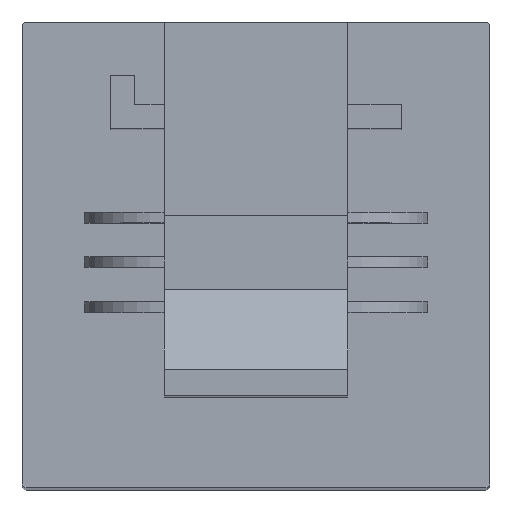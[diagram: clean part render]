
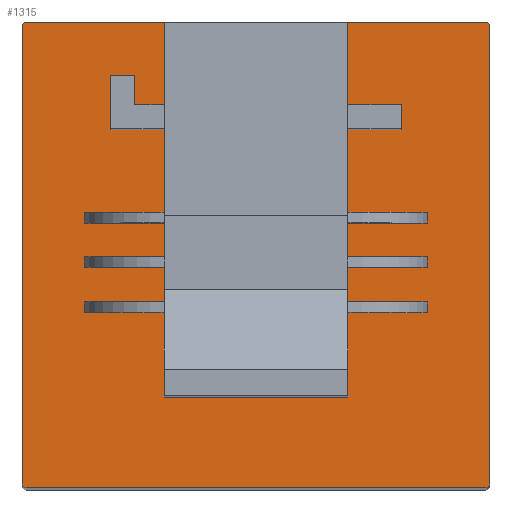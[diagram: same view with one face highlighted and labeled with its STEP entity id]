
A CAD part, top view. The second image highlights one B-rep face of the part: STEP entity #1315.
In plain terms, the highlighted planar face has unit normal (0, 0, 1).
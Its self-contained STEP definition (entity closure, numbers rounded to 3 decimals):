
#1 = CARTESIAN_POINT ( 'NONE',  ( 420.435, 174.005, 90. ) ) ;
#118 = VECTOR ( 'NONE', #3358, 1000. ) ;
#190 = EDGE_CURVE ( 'NONE', #1474, #1939, #2580, .T. ) ;
#191 = CARTESIAN_POINT ( 'NONE',  ( 420.435, 139.518, 90. ) ) ;
#226 = VERTEX_POINT ( 'NONE', #2991 ) ;
#312 = CARTESIAN_POINT ( 'NONE',  ( 455.143, 139.387, 90. ) ) ;
#442 = CARTESIAN_POINT ( 'NONE',  ( 455.241, 174.2, 90. ) ) ;
#461 = CARTESIAN_POINT ( 'NONE',  ( 420.435, 174.005, 90. ) ) ;
#586 = CARTESIAN_POINT ( 'NONE',  ( 455.436, 139.679, 90. ) ) ;
#591 = VERTEX_POINT ( 'NONE', #1373 ) ;
#619 = FACE_OUTER_BOUND ( 'NONE', #1513, .T. ) ;
#692 = VERTEX_POINT ( 'NONE', #1034 ) ;
#889 = CARTESIAN_POINT ( 'NONE',  ( 420.435, 174.005, 90. ) ) ;
#1034 = CARTESIAN_POINT ( 'NONE',  ( 420.63, 174.2, 90. ) ) ;
#1084 = EDGE_CURVE ( 'NONE', #3185, #692, #2032, .T. ) ;
#1086 = ORIENTED_EDGE ( 'NONE', *, *, #190, .T. ) ;
#1100 = B_SPLINE_CURVE_WITH_KNOTS ( 'NONE', 3,
 ( #1155, #191, #2739, #2427 ),
 .UNSPECIFIED., .F., .F.,
 ( 4, 4 ),
 ( 0., 1. ),
 .UNSPECIFIED. ) ;
#1132 = AXIS2_PLACEMENT_3D ( 'NONE', #2275, #2866, #2559 ) ;
#1153 = CARTESIAN_POINT ( 'NONE',  ( 455.436, 174.005, 90. ) ) ;
#1155 = CARTESIAN_POINT ( 'NONE',  ( 420.435, 139.679, 90. ) ) ;
#1173 = CARTESIAN_POINT ( 'NONE',  ( 455.241, 174.2, 90. ) ) ;
#1278 = PLANE ( 'NONE',  #1132 ) ;
#1315 = ADVANCED_FACE ( 'NONE', ( #619 ), #1278, .F. ) ;
#1373 = CARTESIAN_POINT ( 'NONE',  ( 420.727, 139.387, 90. ) ) ;
#1474 = VERTEX_POINT ( 'NONE', #461 ) ;
#1513 = EDGE_LOOP ( 'NONE', ( #3387, #2310, #1669, #1086, #3765, #3773, #2657, #3403 ) ) ;
#1545 = DIRECTION ( 'NONE',  ( 1., 0., 0. ) ) ;
#1616 = LINE ( 'NONE', #3184, #3800 ) ;
#1666 = VERTEX_POINT ( 'NONE', #3531 ) ;
#1669 = ORIENTED_EDGE ( 'NONE', *, *, #3706, .T. ) ;
#1705 = VERTEX_POINT ( 'NONE', #312 ) ;
#1853 = CARTESIAN_POINT ( 'NONE',  ( 420.522, 174.2, 90. ) ) ;
#1854 = B_SPLINE_CURVE_WITH_KNOTS ( 'NONE', 3,
 ( #1153, #3791, #3707, #1173 ),
 .UNSPECIFIED., .F., .F.,
 ( 4, 4 ),
 ( 0., 1. ),
 .UNSPECIFIED. ) ;
#1880 = LINE ( 'NONE', #3716, #3446 ) ;
#1939 = VERTEX_POINT ( 'NONE', #2849 ) ;
#2032 = LINE ( 'NONE', #442, #118 ) ;
#2214 = EDGE_CURVE ( 'NONE', #1666, #3185, #1854, .T. ) ;
#2275 = CARTESIAN_POINT ( 'NONE',  ( 455.379, 174.143, 90. ) ) ;
#2310 = ORIENTED_EDGE ( 'NONE', *, *, #1084, .T. ) ;
#2339 = EDGE_CURVE ( 'NONE', #226, #1666, #1616, .T. ) ;
#2427 = CARTESIAN_POINT ( 'NONE',  ( 420.727, 139.387, 90. ) ) ;
#2488 = CARTESIAN_POINT ( 'NONE',  ( 455.305, 139.387, 90. ) ) ;
#2559 = DIRECTION ( 'NONE',  ( -1., 0., 0. ) ) ;
#2580 = LINE ( 'NONE', #1, #3135 ) ;
#2657 = ORIENTED_EDGE ( 'NONE', *, *, #3163, .T. ) ;
#2739 = CARTESIAN_POINT ( 'NONE',  ( 420.566, 139.387, 90. ) ) ;
#2762 = CARTESIAN_POINT ( 'NONE',  ( 420.63, 174.2, 90. ) ) ;
#2805 = CARTESIAN_POINT ( 'NONE',  ( 455.143, 139.387, 90. ) ) ;
#2842 = DIRECTION ( 'NONE',  ( 0., 1., 0. ) ) ;
#2849 = CARTESIAN_POINT ( 'NONE',  ( 420.435, 139.679, 90. ) ) ;
#2866 = DIRECTION ( 'NONE',  ( 0., 0., -1. ) ) ;
#2991 = CARTESIAN_POINT ( 'NONE',  ( 455.436, 139.679, 90. ) ) ;
#3070 = EDGE_CURVE ( 'NONE', #1939, #591, #1100, .T. ) ;
#3135 = VECTOR ( 'NONE', #3203, 1000. ) ;
#3163 = EDGE_CURVE ( 'NONE', #1705, #226, #3653, .T. ) ;
#3184 = CARTESIAN_POINT ( 'NONE',  ( 455.436, 139.679, 90. ) ) ;
#3185 = VERTEX_POINT ( 'NONE', #3577 ) ;
#3203 = DIRECTION ( 'NONE',  ( 0., -1., 0. ) ) ;
#3357 = B_SPLINE_CURVE_WITH_KNOTS ( 'NONE', 3,
 ( #2762, #1853, #3385, #889 ),
 .UNSPECIFIED., .F., .F.,
 ( 4, 4 ),
 ( 0., 1. ),
 .UNSPECIFIED. ) ;
#3358 = DIRECTION ( 'NONE',  ( -1., 0., 0. ) ) ;
#3385 = CARTESIAN_POINT ( 'NONE',  ( 420.435, 174.113, 90. ) ) ;
#3387 = ORIENTED_EDGE ( 'NONE', *, *, #2214, .T. ) ;
#3403 = ORIENTED_EDGE ( 'NONE', *, *, #2339, .T. ) ;
#3446 = VECTOR ( 'NONE', #1545, 1000. ) ;
#3455 = CARTESIAN_POINT ( 'NONE',  ( 455.436, 139.518, 90. ) ) ;
#3531 = CARTESIAN_POINT ( 'NONE',  ( 455.436, 174.005, 90. ) ) ;
#3577 = CARTESIAN_POINT ( 'NONE',  ( 455.241, 174.2, 90. ) ) ;
#3653 = B_SPLINE_CURVE_WITH_KNOTS ( 'NONE', 3,
 ( #2805, #2488, #3455, #586 ),
 .UNSPECIFIED., .F., .F.,
 ( 4, 4 ),
 ( 0., 1. ),
 .UNSPECIFIED. ) ;
#3706 = EDGE_CURVE ( 'NONE', #692, #1474, #3357, .T. ) ;
#3707 = CARTESIAN_POINT ( 'NONE',  ( 455.348, 174.2, 90. ) ) ;
#3716 = CARTESIAN_POINT ( 'NONE',  ( 420.727, 139.387, 90. ) ) ;
#3765 = ORIENTED_EDGE ( 'NONE', *, *, #3070, .T. ) ;
#3773 = ORIENTED_EDGE ( 'NONE', *, *, #3826, .T. ) ;
#3791 = CARTESIAN_POINT ( 'NONE',  ( 455.436, 174.113, 90. ) ) ;
#3800 = VECTOR ( 'NONE', #2842, 1000. ) ;
#3826 = EDGE_CURVE ( 'NONE', #591, #1705, #1880, .T. ) ;
